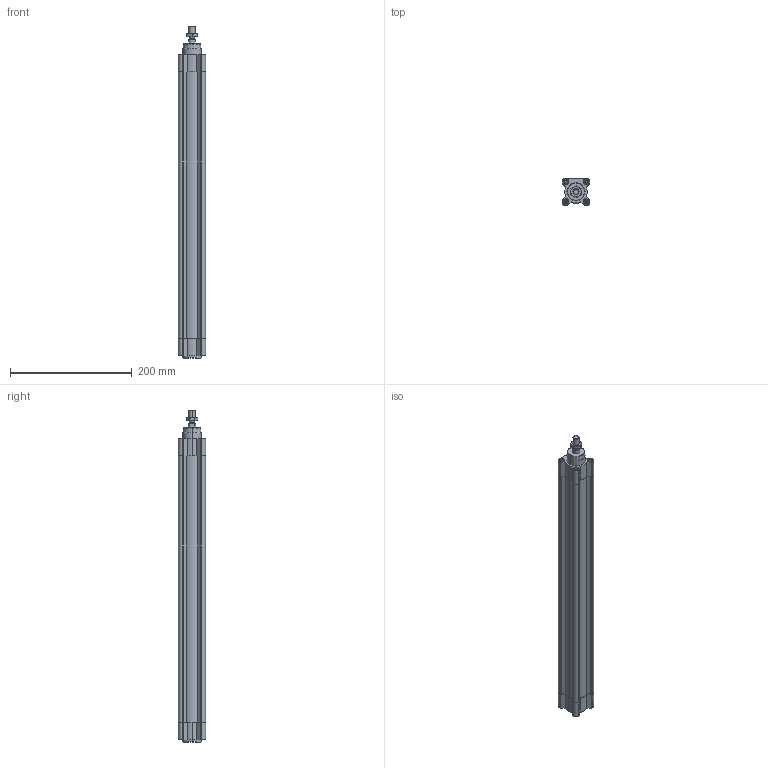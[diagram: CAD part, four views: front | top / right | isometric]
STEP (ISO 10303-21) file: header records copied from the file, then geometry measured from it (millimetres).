
FILE_DESCRIPTION (( 'STEP AP203' ), '1' );
FILE_NAME ('CPME32-400.STEP', '2023-08-10T10:36:20', ( '' ), ( '' ), 'SwSTEP 2.0', 'SolidWorks 2019', '' );
FILE_SCHEMA (( 'CONFIG_CONTROL_DESIGN' ));
Length unit declared in the file: millimetre
Products named in the file (1): CPME32-400
Bounding box: 45 x 45 x 545.1 mm (x, y, z)
Volume: 470918.1 mm3; surface area: 190614.9 mm2
Topology: 3 solids, 3 shells, 633 faces, 1637 edges, 1038 vertices
Faces by surface type: plane 327, cylinder 192, cone 106, torus 8
Entity records: 19692 total; most frequent: CARTESIAN_POINT 4284, ORIENTED_EDGE 3242, DIRECTION 3141, EDGE_CURVE 1621, AXIS2_PLACEMENT_3D 1109, VERTEX_POINT 1038, LINE 923, VECTOR 923
